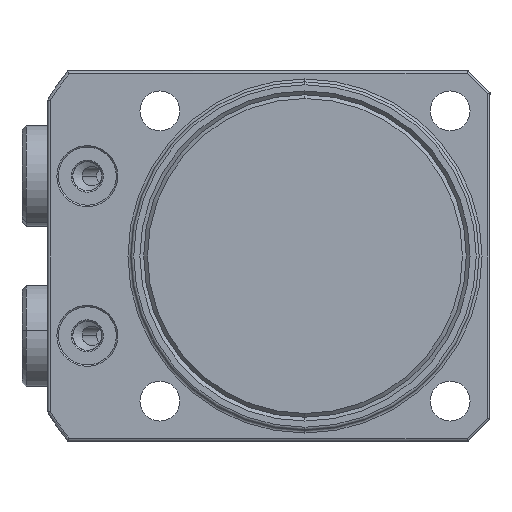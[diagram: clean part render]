
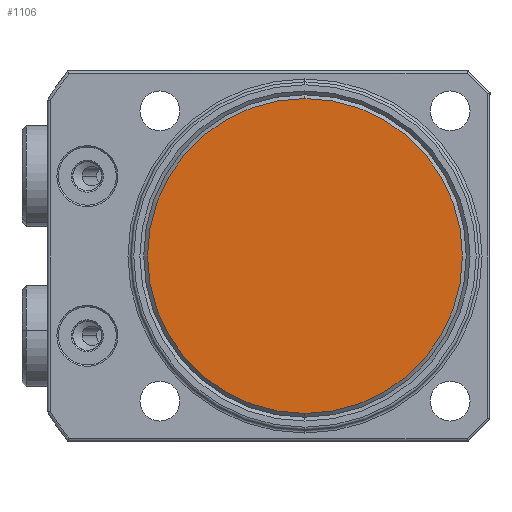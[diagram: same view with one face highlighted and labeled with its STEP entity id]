
A CAD part, front view. The second image highlights one B-rep face of the part: STEP entity #1106.
In plain terms, the highlighted planar face has unit normal (0, -1, 0) as drawn and (1, 0, 0) by its records, which use the part's own axes.
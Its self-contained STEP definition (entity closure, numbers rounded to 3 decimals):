
#862=PLANE('',#4464);
#1106=ADVANCED_FACE('',(#1367),#862,.T.);
#1367=FACE_OUTER_BOUND('',#1571,.T.);
#1571=EDGE_LOOP('',(#2473,#2474));
#2473=ORIENTED_EDGE('',*,*,#3665,.F.);
#2474=ORIENTED_EDGE('',*,*,#3795,.F.);
#3298=VERTEX_POINT('',#6258);
#3299=VERTEX_POINT('',#6259);
#3665=EDGE_CURVE('',#3298,#3299,#4139,.T.);
#3795=EDGE_CURVE('',#3299,#3298,#4181,.T.);
#4139=CIRCLE('',#4393,21.7);
#4181=CIRCLE('',#4463,21.7);
#4393=AXIS2_PLACEMENT_3D('',#6257,#4955,#4956);
#4463=AXIS2_PLACEMENT_3D('',#6796,#5151,#5152);
#4464=AXIS2_PLACEMENT_3D('',#6797,#5153,#5154);
#4955=DIRECTION('',(-1.,0.,0.));
#4956=DIRECTION('',(0.,0.,1.));
#5151=DIRECTION('',(-1.,0.,0.));
#5152=DIRECTION('',(0.,0.,1.));
#5153=DIRECTION('',(1.,0.,0.));
#5154=DIRECTION('',(0.,0.,1.));
#6257=CARTESIAN_POINT('',(51.,0.,0.));
#6258=CARTESIAN_POINT('',(51.,0.,21.7));
#6259=CARTESIAN_POINT('',(51.,0.,-21.7));
#6796=CARTESIAN_POINT('',(51.,0.,0.));
#6797=CARTESIAN_POINT('',(51.,0.,0.));
